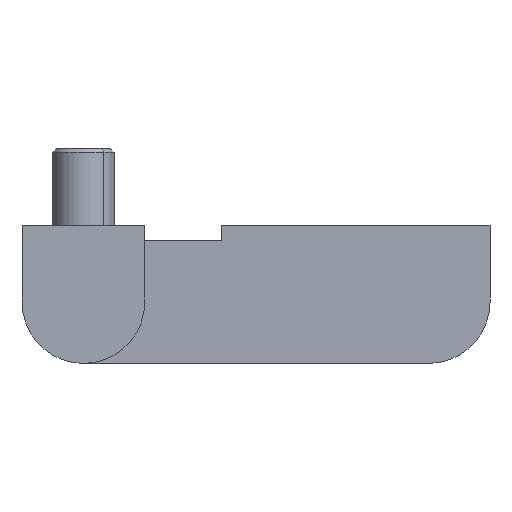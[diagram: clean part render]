
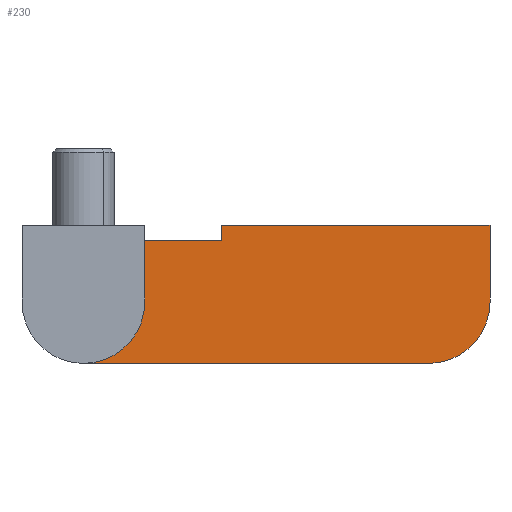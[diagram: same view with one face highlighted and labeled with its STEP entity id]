
A CAD part, left-side view. The second image highlights one B-rep face of the part: STEP entity #230.
In plain terms, the highlighted planar face has unit normal (-1, 0, 0).
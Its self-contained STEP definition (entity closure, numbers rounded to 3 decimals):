
#142 = ORIENTED_EDGE ( 'NONE', *, *, #143, .T. ) ;
#143 = EDGE_CURVE ( 'NONE', #352, #353, #704, .T. ) ;
#217 = EDGE_CURVE ( 'NONE', #339, #409, #940, .T. ) ;
#230 = ADVANCED_FACE ( 'NONE', ( #856, #957 ), #861, .F. ) ;
#231 = EDGE_LOOP ( 'NONE', ( #232, #234 ) ) ;
#232 = ORIENTED_EDGE ( 'NONE', *, *, #233, .F. ) ;
#233 = EDGE_CURVE ( 'NONE', #330, #327, #839, .T. ) ;
#234 = ORIENTED_EDGE ( 'NONE', *, *, #329, .F. ) ;
#318 = EDGE_LOOP ( 'NONE', ( #337, #340, #142, #439, #400, #452, #433 ) ) ;
#319 = VERTEX_POINT ( 'NONE', #1093 ) ;
#327 = VERTEX_POINT ( 'NONE', #1113 ) ;
#329 = EDGE_CURVE ( 'NONE', #327, #330, #1057, .T. ) ;
#330 = VERTEX_POINT ( 'NONE', #1123 ) ;
#337 = ORIENTED_EDGE ( 'NONE', *, *, #338, .F. ) ;
#338 = EDGE_CURVE ( 'NONE', #319, #339, #1124, .T. ) ;
#339 = VERTEX_POINT ( 'NONE', #1122 ) ;
#340 = ORIENTED_EDGE ( 'NONE', *, *, #351, .T. ) ;
#351 = EDGE_CURVE ( 'NONE', #319, #352, #1159, .T. ) ;
#352 = VERTEX_POINT ( 'NONE', #1167 ) ;
#353 = VERTEX_POINT ( 'NONE', #1171 ) ;
#369 = EDGE_CURVE ( 'NONE', #408, #371, #1225, .T. ) ;
#370 = EDGE_CURVE ( 'NONE', #409, #408, #1240, .T. ) ;
#371 = VERTEX_POINT ( 'NONE', #1241 ) ;
#400 = ORIENTED_EDGE ( 'NONE', *, *, #369, .F. ) ;
#408 = VERTEX_POINT ( 'NONE', #1301 ) ;
#409 = VERTEX_POINT ( 'NONE', #1307 ) ;
#433 = ORIENTED_EDGE ( 'NONE', *, *, #217, .F. ) ;
#439 = ORIENTED_EDGE ( 'NONE', *, *, #441, .F. ) ;
#441 = EDGE_CURVE ( 'NONE', #371, #353, #1350, .T. ) ;
#452 = ORIENTED_EDGE ( 'NONE', *, *, #370, .F. ) ;
#684 = DIRECTION ( 'NONE',  ( -1., 0., 0. ) ) ;
#688 = CARTESIAN_POINT ( 'NONE',  ( 0., 8., 8. ) ) ;
#699 = DIRECTION ( 'NONE',  ( 0., 0., -1. ) ) ;
#704 = CIRCLE ( 'NONE', #717, 8. ) ;
#717 = AXIS2_PLACEMENT_3D ( 'NONE', #688, #684, #699 ) ;
#836 = DIRECTION ( 'NONE',  ( 0., 0., 1. ) ) ;
#837 = DIRECTION ( 'NONE',  ( -1., 0., 0. ) ) ;
#838 = AXIS2_PLACEMENT_3D ( 'NONE', #955, #837, #836 ) ;
#839 = CIRCLE ( 'NONE', #838, 3.55 ) ;
#856 = FACE_BOUND ( 'NONE', #231, .T. ) ;
#861 = PLANE ( 'NONE',  #956 ) ;
#939 = CARTESIAN_POINT ( 'NONE',  ( 0., 61., 16. ) ) ;
#940 = LINE ( 'NONE', #939, #976 ) ;
#952 = DIRECTION ( 'NONE',  ( 0., 0., -1. ) ) ;
#953 = DIRECTION ( 'NONE',  ( 1., 0., 0. ) ) ;
#954 = CARTESIAN_POINT ( 'NONE',  ( 0., 0., 18. ) ) ;
#955 = CARTESIAN_POINT ( 'NONE',  ( 0., 53., 8. ) ) ;
#956 = AXIS2_PLACEMENT_3D ( 'NONE', #954, #953, #952 ) ;
#957 = FACE_OUTER_BOUND ( 'NONE', #318, .T. ) ;
#975 = DIRECTION ( 'NONE',  ( 0., -1., 0. ) ) ;
#976 = VECTOR ( 'NONE', #975, 1000. ) ;
#1057 = CIRCLE ( 'NONE', #1071, 3.55 ) ;
#1068 = DIRECTION ( 'NONE',  ( 0., 0., 1. ) ) ;
#1069 = DIRECTION ( 'NONE',  ( -1., 0., 0. ) ) ;
#1070 = CARTESIAN_POINT ( 'NONE',  ( 0., 53., 8. ) ) ;
#1071 = AXIS2_PLACEMENT_3D ( 'NONE', #1070, #1069, #1068 ) ;
#1093 = CARTESIAN_POINT ( 'NONE',  ( 0., 53., 0. ) ) ;
#1113 = CARTESIAN_POINT ( 'NONE',  ( 0., 53., 4.45 ) ) ;
#1119 = DIRECTION ( 'NONE',  ( 0., 0., -1. ) ) ;
#1120 = DIRECTION ( 'NONE',  ( 1., 0., 0. ) ) ;
#1122 = CARTESIAN_POINT ( 'NONE',  ( 0., 53., 16. ) ) ;
#1123 = CARTESIAN_POINT ( 'NONE',  ( 0., 53., 11.55 ) ) ;
#1124 = CIRCLE ( 'NONE', #1131, 8. ) ;
#1127 = CARTESIAN_POINT ( 'NONE',  ( 0., 53., 8. ) ) ;
#1131 = AXIS2_PLACEMENT_3D ( 'NONE', #1127, #1120, #1119 ) ;
#1147 = DIRECTION ( 'NONE',  ( 0., -1., 0. ) ) ;
#1148 = VECTOR ( 'NONE', #1147, 1000. ) ;
#1152 = CARTESIAN_POINT ( 'NONE',  ( 0., 0., 0. ) ) ;
#1159 = LINE ( 'NONE', #1152, #1148 ) ;
#1167 = CARTESIAN_POINT ( 'NONE',  ( 0., 8., 0. ) ) ;
#1171 = CARTESIAN_POINT ( 'NONE',  ( 0., 0., 8. ) ) ;
#1224 = CARTESIAN_POINT ( 'NONE',  ( 0., 0., 18. ) ) ;
#1225 = LINE ( 'NONE', #1224, #1229 ) ;
#1228 = DIRECTION ( 'NONE',  ( 0., -1., 0. ) ) ;
#1229 = VECTOR ( 'NONE', #1228, 1000. ) ;
#1237 = DIRECTION ( 'NONE',  ( 0., 0., 1. ) ) ;
#1238 = VECTOR ( 'NONE', #1237, 1000. ) ;
#1239 = CARTESIAN_POINT ( 'NONE',  ( 0., 35., 16. ) ) ;
#1240 = LINE ( 'NONE', #1239, #1238 ) ;
#1241 = CARTESIAN_POINT ( 'NONE',  ( 0., 0., 18. ) ) ;
#1301 = CARTESIAN_POINT ( 'NONE',  ( 0., 35., 18. ) ) ;
#1307 = CARTESIAN_POINT ( 'NONE',  ( 0., 35., 16. ) ) ;
#1346 = DIRECTION ( 'NONE',  ( 0., 0., -1. ) ) ;
#1350 = LINE ( 'NONE', #1352, #1351 ) ;
#1351 = VECTOR ( 'NONE', #1346, 1000. ) ;
#1352 = CARTESIAN_POINT ( 'NONE',  ( 0., 0., 18. ) ) ;
